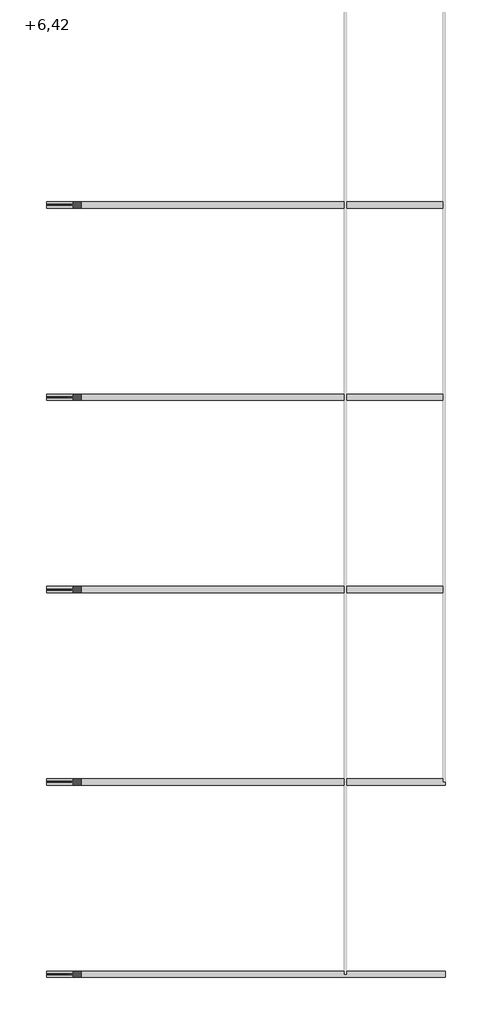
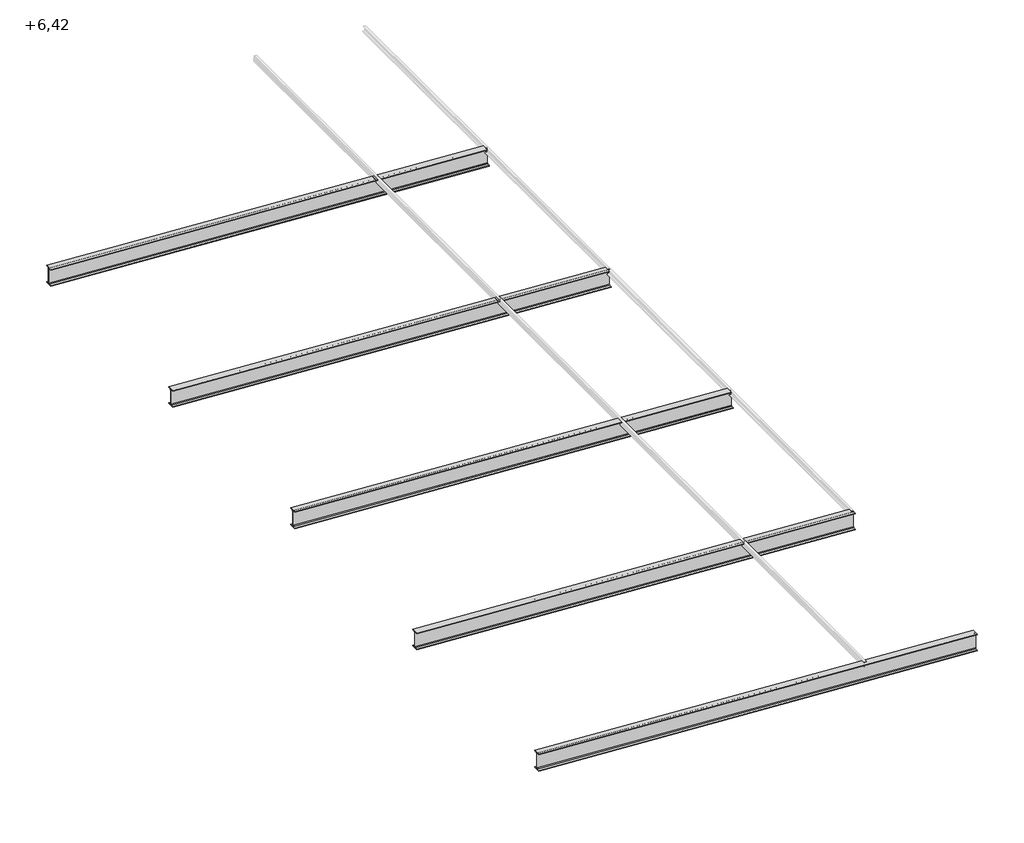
# One storey, part 1 of 2: 5 beams.
"""IFC4 building model written with IfcOpenShell, lengths in millimetres."""

import ifcopenshell
import ifcopenshell.guid

model = None  # the IFC model being written
_history = None  # IfcOwnerHistory: only IFC2X3 demands one
_inside = {}  # id of a spatial element -> (the spatial element, [elements in it])
_under = {}  # id of a project, library or spatial element -> (it, [spatial elements below it])
_declared = {}  # id of a project -> (the project, [libraries it declares])
_typed = {}  # id of a type object -> (the type object, [elements of that type])
_made_of = {}  # id of a material, layer set ... -> (it, [elements and type objects made of it])


def new_model(schema):
    """Start an empty IFC model of exactly this schema.

    Asked for "IFC4X3", IfcOpenShell would pick the latest addendum, in which some entities
    have other attributes; the version numbers below select the first issue.
    IFC2X3 requires an IfcOwnerHistory on every rooted entity: one is made here for all.
    """
    global model, _history
    if schema == "IFC4X3":
        model = ifcopenshell.file(schema_version=(4, 3, 0, 0))
    else:
        model = ifcopenshell.file(schema=schema)
    _inside.clear()
    _under.clear()
    _declared.clear()
    _typed.clear()
    _made_of.clear()
    _history = None
    if model.schema == "IFC2X3":
        org = make("IfcOrganization", Name="unknown")
        user = make(
            "IfcPersonAndOrganization",
            ThePerson=make("IfcPerson", FamilyName="unknown"),
            TheOrganization=org,
        )
        app = make(
            "IfcApplication",
            ApplicationDeveloper=org,
            Version="unknown",
            ApplicationFullName="unknown",
            ApplicationIdentifier="unknown",
        )
        _history = make(
            "IfcOwnerHistory",
            OwningUser=user,
            OwningApplication=app,
            ChangeAction="ADDED",
            CreationDate=0,
        )
    return model


def make(cls, **values):
    """One entity of the class cls with the attributes given. An attribute that is None is left unset."""
    return model.create_entity(
        cls, **{name: value for name, value in values.items() if value is not None}
    )


def rooted(cls, **values):
    """An entity with a GlobalId (a new one), such as an element, a storey or a relation."""
    return make(cls, GlobalId=ifcopenshell.guid.new(), OwnerHistory=_history, **values)


def si_unit(unit_type, name, prefix=None):
    """IfcSIUnit, for example si_unit("LENGTHUNIT", "METRE", prefix="MILLI")."""
    return make("IfcSIUnit", UnitType=unit_type, Prefix=prefix, Name=name)


def assignment(units):
    """IfcUnitAssignment: the units of a project."""
    return None if units is None else make("IfcUnitAssignment", Units=units)


def point(xyz):
    """IfcCartesianPoint."""
    return None if xyz is None else make("IfcCartesianPoint", Coordinates=xyz)


def direction(xyz):
    """IfcDirection."""
    return None if xyz is None else make("IfcDirection", DirectionRatios=xyz)


def frame(location, z_axis=None, x_axis=None):
    """IfcAxis2Placement3D, a coordinate frame: its origin and axes. An axis left out is left unset."""
    return make(
        "IfcAxis2Placement3D",
        Location=point(location),
        Axis=direction(z_axis),
        RefDirection=direction(x_axis),
    )


def origin():
    """The frame at (0, 0, 0) with its axes left unset."""
    return frame((0.0, 0.0, 0.0))


def place(relative_to, where):
    """IfcLocalPlacement: puts the frame where relative to a parent placement (None: the world)."""
    return make(
        "IfcLocalPlacement", PlacementRelTo=relative_to, RelativePlacement=where
    )


def context(
    kind, dimensions, precision=None, world=None, true_north=None, identifier=None
):
    """IfcGeometricRepresentationContext, for example the 3D "Model" context."""
    return make(
        "IfcGeometricRepresentationContext",
        ContextIdentifier=identifier,
        ContextType=kind,
        CoordinateSpaceDimension=dimensions,
        Precision=precision,
        WorldCoordinateSystem=world,
        TrueNorth=true_north,
    )


def project(units=None, contexts=None):
    """IfcProject with its units and contexts."""
    return rooted(
        "IfcProject",
        Name="project",
        RepresentationContexts=contexts,
        UnitsInContext=assignment(units),
    )


def spatial(cls, under=None, at=None, **own):
    """A site, building, storey or space (cls), placed at a placement, below another one or the project."""
    s = rooted(cls, ObjectPlacement=at, **own)
    if under is not None:
        _under.setdefault(under.id(), (under, []))[1].append(s)
    return s


def polyline(points):
    """IfcPolyline through the points."""
    return make("IfcPolyline", Points=[point(p) for p in points])


def ellipse_curve(where, semi_axis1, semi_axis2):
    """IfcEllipse in the frame where."""
    return make(
        "IfcEllipse", Position=where, SemiAxis1=semi_axis1, SemiAxis2=semi_axis2
    )


def shape(context_of_items, identifier, shape_type, items):
    """IfcShapeRepresentation: the items that make up one representation, for example the "Body"."""
    return make(
        "IfcShapeRepresentation",
        ContextOfItems=context_of_items,
        RepresentationIdentifier=identifier,
        RepresentationType=shape_type,
        Items=items,
    )


def made_of(thing, what):
    """Note that an element or type object is made of a material, layer set ...; save() writes the relation."""
    if what is not None:
        _made_of.setdefault(what.id(), (what, []))[1].append(thing)
    return thing


def element(
    cls,
    number,
    at=None,
    inside=None,
    cuts=None,
    type_object=None,
    material=None,
    context=None,
    identifier="Body",
    shape_type=None,
    held_by="IfcProductDefinitionShape",
    body=None,
    shapes=None,
    **own,
):
    """One element of the class cls, such as IfcWall. Its Tag is "e" and its number.

    at: its placement. inside: the storey or other place that contains it. cuts: it is an
    opening in that element (IfcRelVoidsElement). A single representation is given by context,
    identifier, shape_type and body (its items); several are given by shapes. held_by: the class
    of the entity that holds the representations. save() writes the other relations.
    """
    e = rooted(cls, Tag="e%d" % number, ObjectPlacement=at, **own)
    if body is not None:
        shapes = [shape(context, identifier, shape_type, body)]
    if shapes is not None:
        e.Representation = make(held_by, Representations=shapes)
    if inside is not None:
        _inside.setdefault(inside.id(), (inside, []))[1].append(e)
    if cuts is not None:
        rooted(
            "IfcRelVoidsElement", RelatingBuildingElement=cuts, RelatedOpeningElement=e
        )
    if type_object is not None:
        _typed.setdefault(type_object.id(), (type_object, []))[1].append(e)
    return made_of(e, material)


def aggregate(whole, parts):
    """IfcRelAggregates: a whole, such as a stair, and the parts it consists of."""
    return rooted("IfcRelAggregates", RelatingObject=whole, RelatedObjects=parts)


def save(model, path):
    """Write the relations noted so far, then the file.

    IfcRelAggregates (storeys below a building ...), IfcRelContainedInSpatialStructure (elements
    in a storey), IfcRelDefinesByType, IfcRelAssociatesMaterial and IfcRelDeclares: one each for
    every whole, place, type object, material and project.
    """
    for whole, parts in _under.values():
        aggregate(whole, parts)
    for where, things in _inside.values():
        rooted(
            "IfcRelContainedInSpatialStructure",
            RelatedElements=things,
            RelatingStructure=where,
        )
    for kind, things in _typed.values():
        rooted("IfcRelDefinesByType", RelatedObjects=things, RelatingType=kind)
    for what, things in _made_of.values():
        rooted("IfcRelAssociatesMaterial", RelatedObjects=things, RelatingMaterial=what)
    for by, libraries in _declared.values():
        rooted("IfcRelDeclares", RelatingContext=by, RelatedDefinitions=libraries)
    model.write(path)


def plane_surface(at):
    """IfcPlane: the flat surface through the origin of the frame at, square to its z axis."""
    return make("IfcPlane", Position=at)


def revolved_surface(curve, axis_point, axis_direction):
    """IfcSurfaceOfRevolution: the curve turned about the line through axis_point along axis_direction."""
    return make(
        "IfcSurfaceOfRevolution",
        SweptCurve=make("IfcArbitraryOpenProfileDef", ProfileType="CURVE", Curve=curve),
        AxisPosition=make("IfcAxis1Placement", Location=point(axis_point), Axis=direction(axis_direction)),
    )


def advanced_brep(points, edges, surfaces, faces):
    """IfcAdvancedBrep: a solid bounded by faces that lie on surfaces and meet in shared edges.

    An edge is (start, end): straight between two places in points (the first is 0);
    or (start, end, curve); or (start, end, curve, False) where it runs against its curve.
    A face is (place in surfaces, loops), or (place, loops, False) where it looks against
    its surface's normal. A loop lists edges by number (the first is 1), with a minus sign
    where the edge is run from its end to its start. The first loop is the outer one.
    """
    corners = [point(p) for p in points]
    vertices = [make("IfcVertexPoint", VertexGeometry=c) for c in corners]
    made = []
    for start, end, *more in edges:
        made.append(
            make(
                "IfcEdgeCurve",
                EdgeStart=vertices[start],
                EdgeEnd=vertices[end],
                EdgeGeometry=more[0] if more else make("IfcPolyline", Points=[corners[start], corners[end]]),
                SameSense=more[1] if len(more) > 1 else True,
            )
        )
    hull = []
    for where, loops, *sense in faces:
        bounds = []
        for j, loop in enumerate(loops):
            ring = [make("IfcOrientedEdge", EdgeElement=made[abs(k) - 1], Orientation=k > 0) for k in loop]
            bounds.append(
                make(
                    "IfcFaceOuterBound" if j == 0 else "IfcFaceBound",
                    Bound=make("IfcEdgeLoop", EdgeList=ring),
                    Orientation=True,
                )
            )
        hull.append(make("IfcAdvancedFace", Bounds=bounds, FaceSurface=surfaces[where], SameSense=sense[0] if sense else True))
    return make("IfcAdvancedBrep", Outer=make("IfcClosedShell", CfsFaces=hull))


model = new_model("IFC4")

# Units and contexts
model_context = context("Model", 3, world=origin())
ifc_project = project(units=[si_unit("LENGTHUNIT", "METRE", prefix="MILLI")], contexts=[model_context])

# Site, building, storey
site = spatial("IfcSite", under=ifc_project)
building = spatial("IfcBuilding", under=site)
storey = spatial("IfcBuildingStorey", under=building, Name="+6,42", Elevation=6424.0)

# Beams
placement = place(None, origin())
element("IfcBeam", 1, ObjectType="RPLN IPE - Dwuteowniki równoległościenne : I500PE", at=placement, inside=storey, context=model_context, shape_type="AdvancedBrep", body=[
    advanced_brep(
    [(-8321.9964847, -36886.3816585, 7205.3878617), (-8321.9964847, -36812.4816585, 7205.3878617), (-8321.9938274, -36812.4816585, 7189.3584456), (-8321.9938274, -37012.4816585, 7189.3584456), (-8321.9964847, -37012.4816585, 7205.3878617), (-8321.9964847, -36938.5816585, 7205.3878617), (-8321.9999723, -36917.5816585, 7226.4264702), (-8322.070722, -36917.5816585, 7653.2096717), (-8322.0742096, -36938.5816585, 7674.2482802), (-8322.0742096, -37012.4816585, 7674.2482802), (-8322.0768669, -37012.4816585, 7690.2776962), (-8322.0768669, -36812.4816585, 7690.2776962), (-8322.0742096, -36812.4816585, 7674.2482802), (-8322.0742096, -36886.3816585, 7674.2482802), (-8322.070722, -36907.3816585, 7653.2096717), (-8321.9999723, -36907.3816585, 7226.4264702), (4132.9926321, -36812.4816585, 6451.8610201), (4132.9926321, -36886.3816585, 6451.8610201), (4132.9926321, -36907.3816585, 6472.8994176), (4132.9926321, -36907.3816585, 6899.6783387), (4132.9926321, -36886.3816585, 6920.7167363), (4132.9926321, -36812.4816585, 6920.7167363), (4132.9926321, -36812.4816585, 6936.7459915), (4132.9926321, -37012.4816585, 6936.7459915), (4132.9926321, -37012.4816585, 6920.7167363), (4132.9926321, -36938.5816585, 6920.7167363), (4132.9926321, -36917.5816585, 6899.6783387), (4132.9926321, -36917.5816585, 6472.8994176), (4132.9926321, -36938.5816585, 6451.8610201), (4132.9926321, -37012.4816585, 6451.8610201), (4132.9926321, -37012.4816585, 6435.8317648), (4132.9926321, -36812.4816585, 6435.8317648)],
    [
        (0, 1),
        (1, 2),
        (2, 3),
        (3, 4),
        (4, 5),
        (5, 6, ellipse_curve(frame((-8321.9999723, -36938.5816585, 7226.4264702), z_axis=(0.9999999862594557, 0.0, 0.0001657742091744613), x_axis=(-0.00016577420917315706, 0.0, 0.9999999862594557)), 21.0386088, 21.0)),
        (6, 7),
        (7, 8, ellipse_curve(frame((-8322.070722, -36938.5816585, 7653.2096717), z_axis=(0.9999999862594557, 0.0, 0.0001657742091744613), x_axis=(-0.00016577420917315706, 0.0, 0.9999999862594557)), 21.0386088, 21.0)),
        (8, 9),
        (9, 10),
        (10, 11),
        (11, 12),
        (12, 13),
        (13, 14, ellipse_curve(frame((-8322.070722, -36886.3816585, 7653.2096717), z_axis=(0.9999999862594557, 0.0, 0.0001657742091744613), x_axis=(-0.00016577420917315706, 0.0, 0.9999999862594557)), 21.0386088, 21.0)),
        (14, 15),
        (15, 0, ellipse_curve(frame((-8321.9999723, -36886.3816585, 7226.4264702), z_axis=(0.9999999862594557, 0.0, 0.0001657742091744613), x_axis=(-0.00016577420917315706, 0.0, 0.9999999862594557)), 21.0386088, 21.0)),
        (16, 17),
        (17, 18, ellipse_curve(frame((4132.9926321, -36886.3816585, 6472.8994176), z_axis=(-1.0, 0.0, 0.0), x_axis=(0.0, 0.0, 0.9999999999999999)), 21.0383975, 21.0)),
        (18, 19),
        (19, 20, ellipse_curve(frame((4132.9926321, -36886.3816585, 6899.6783387), z_axis=(-1.0, 0.0, 0.0), x_axis=(0.0, 0.0, 0.9999999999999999)), 21.0383975, 21.0)),
        (20, 21),
        (21, 22),
        (22, 23),
        (23, 24),
        (24, 25),
        (25, 26, ellipse_curve(frame((4132.9926321, -36938.5816585, 6899.6783387), z_axis=(-1.0, 0.0, 0.0), x_axis=(0.0, 0.0, 0.9999999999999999)), 21.0383975, 21.0)),
        (26, 27),
        (27, 28, ellipse_curve(frame((4132.9926321, -36938.5816585, 6472.8994176), z_axis=(-1.0, 0.0, 0.0), x_axis=(0.0, 0.0, 0.9999999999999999)), 21.0383975, 21.0)),
        (28, 29),
        (29, 30),
        (30, 31),
        (31, 16),
        (16, 1),
        (0, 17),
        (31, 2),
        (30, 3),
        (29, 4),
        (28, 5),
        (27, 6),
        (26, 7),
        (25, 8),
        (24, 9),
        (23, 10),
        (22, 11),
        (21, 12),
        (20, 13),
        (19, 14),
        (18, 15),
    ],
    [
        plane_surface(frame((-8321.8596552, -36912.4816585, 6379.9913475), z_axis=(-0.9999999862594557, 0.0, -0.0001657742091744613), x_axis=(0.0001657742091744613, 0.0, -0.9999999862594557))),
        plane_surface(frame((4132.9926321, -36912.4816585, 6983.0025864), z_axis=(1.0, 0.0, 0.0), x_axis=(0.0, 0.0, 1.0))),
        plane_surface(frame((4227.795571, -36812.4816585, 6446.1254423), z_axis=(0.06038958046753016, 0.0, 0.9981748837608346), x_axis=(-0.9981748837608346, 0.0, 0.06038958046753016))),
        plane_surface(frame((4226.8293377, -36812.4816585, 6430.1546441), z_axis=(0.0, 1.0, 0.0), x_axis=(-0.9981748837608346, 0.0, 0.06038958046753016))),
        plane_surface(frame((4226.8293377, -37012.4816585, 6430.1546441), z_axis=(-0.06038958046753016, 0.0, -0.9981748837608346), x_axis=(-0.9981748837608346, 0.0, 0.06038958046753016))),
        plane_surface(frame((4227.795571, -37012.4816585, 6446.1254423), z_axis=(0.0, -1.0, 0.0), x_axis=(-0.9981748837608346, 0.0, 0.06038958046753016))),
        plane_surface(frame((4227.795571, -36938.5816585, 6446.1254423), z_axis=(0.06038958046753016, 0.0, 0.9981748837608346), x_axis=(-0.9981748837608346, 0.0, 0.06038958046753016))),
        revolved_surface(polyline([(-8323.27164115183, -36959.5816585, 7226.503406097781), (4134.260813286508, -36959.5816585, 6472.822692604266)]), (4229.0637522, -36938.5816585, 6467.0871148), (-0.9981748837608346, 0.0, 0.06038958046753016)),
        plane_surface(frame((4254.7897134, -36917.5816585, 6892.3096153), z_axis=(0.0, -1.0, 0.0), x_axis=(-0.9981748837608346, 0.0, 0.06038958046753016))),
        revolved_surface(polyline([(-8323.342390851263, -36959.5816585, 7653.286607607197), (4134.260813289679, -36959.5816585, 6899.601613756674)]), (4254.7897134, -36938.5816585, 6892.3096153), (-0.9981748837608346, 0.0, 0.06038958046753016)),
        plane_surface(frame((4256.0578946, -37012.4816585, 6913.2712879), z_axis=(-0.06038958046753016, 0.0, -0.9981748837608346), x_axis=(-0.9981748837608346, 0.0, 0.06038958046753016))),
        plane_surface(frame((4257.0241279, -37012.4816585, 6929.242086), z_axis=(0.0, -1.0, 0.0), x_axis=(-0.9981748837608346, 0.0, 0.06038958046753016))),
        plane_surface(frame((4257.0241279, -36812.4816585, 6929.242086), z_axis=(0.06038958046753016, 0.0, 0.9981748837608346), x_axis=(-0.9981748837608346, 0.0, 0.06038958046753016))),
        plane_surface(frame((4256.0578946, -36812.4816585, 6913.2712879), z_axis=(0.0, 1.0, 0.0), x_axis=(-0.9981748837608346, 0.0, 0.06038958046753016))),
        plane_surface(frame((4256.0578946, -36886.3816585, 6913.2712879), z_axis=(-0.06038958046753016, 0.0, -0.9981748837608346), x_axis=(-0.9981748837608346, 0.0, 0.06038958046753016))),
        revolved_surface(polyline([(-8323.342390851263, -36907.3816585, 7653.286607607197), (4134.260813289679, -36907.3816585, 6899.601613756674)]), (4254.7897134, -36886.3816585, 6892.3096153), (-0.9981748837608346, 0.0, 0.06038958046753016)),
        plane_surface(frame((4229.0637522, -36907.3816585, 6467.0871148), z_axis=(0.0, 1.0, 0.0), x_axis=(-0.9981748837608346, 0.0, 0.06038958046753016))),
        revolved_surface(polyline([(-8323.27164115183, -36907.3816585, 7226.503406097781), (4134.260813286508, -36907.3816585, 6472.822692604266)]), (4229.0637522, -36886.3816585, 6467.0871148), (-0.9981748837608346, 0.0, 0.06038958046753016)),
    ],
    [
        (0, [[1, 2, 3, 4, 5, 6, 7, 8, 9, 10, 11, 12, 13, 14, 15, 16]]),
        (1, [[17, 18, 19, 20, 21, 22, 23, 24, 25, 26, 27, 28, 29, 30, 31, 32]]),
        (2, [[33, -1, 34, -17]]),
        (3, [[35, -2, -33, -32]]),
        (4, [[36, -3, -35, -31]]),
        (5, [[37, -4, -36, -30]]),
        (6, [[38, -5, -37, -29]]),
        (7, [[39, -6, -38, -28]]),
        (8, [[40, -7, -39, -27]]),
        (9, [[41, -8, -40, -26]]),
        (10, [[42, -9, -41, -25]]),
        (11, [[43, -10, -42, -24]]),
        (12, [[44, -11, -43, -23]]),
        (13, [[45, -12, -44, -22]]),
        (14, [[46, -13, -45, -21]]),
        (15, [[47, -14, -46, -20]]),
        (16, [[48, -15, -47, -19]]),
        (17, [[-34, -16, -48, -18]]),
    ],
),
])
element("IfcBeam", 2, ObjectType="RPLN IPE - Dwuteowniki równoległościenne : I500PE", at=placement, inside=storey, context=model_context, shape_type="AdvancedBrep", body=[
    advanced_brep(
    [(-8321.9964847, -30886.3816585, 7205.3878617), (-8321.9964847, -30812.4816585, 7205.3878617), (-8321.9938274, -30812.4816585, 7189.3584456), (-8321.9938274, -31012.4816585, 7189.3584456), (-8321.9964847, -31012.4816585, 7205.3878617), (-8321.9964847, -30938.5816585, 7205.3878617), (-8321.9999723, -30917.5816585, 7226.4264702), (-8322.070722, -30917.5816585, 7653.2096717), (-8322.0742096, -30938.5816585, 7674.2482802), (-8322.0742096, -31012.4816585, 7674.2482802), (-8322.0768669, -31012.4816585, 7690.2776962), (-8322.0768669, -30812.4816585, 7690.2776962), (-8322.0742096, -30812.4816585, 7674.2482802), (-8322.0742096, -30886.3816585, 7674.2482802), (-8322.070722, -30907.3816585, 7653.2096717), (-8321.9999723, -30907.3816585, 7226.4264702), (4132.9926321, -30812.4816585, 6451.8610201), (4132.9926321, -30886.3816585, 6451.8610201), (4132.9926321, -30907.3816585, 6472.8994176), (4132.9926321, -30907.3816585, 6899.6783387), (4132.9926321, -30886.3816585, 6920.7167363), (4132.9926321, -30812.4816585, 6920.7167363), (4132.9926321, -30812.4816585, 6936.7459915), (4132.9926321, -31012.4816585, 6936.7459915), (4132.9926321, -31012.4816585, 6920.7167363), (4132.9926321, -30938.5816585, 6920.7167363), (4132.9926321, -30917.5816585, 6899.6783387), (4132.9926321, -30917.5816585, 6472.8994176), (4132.9926321, -30938.5816585, 6451.8610201), (4132.9926321, -31012.4816585, 6451.8610201), (4132.9926321, -31012.4816585, 6435.8317648), (4132.9926321, -30812.4816585, 6435.8317648)],
    [
        (0, 1),
        (1, 2),
        (2, 3),
        (3, 4),
        (4, 5),
        (5, 6, ellipse_curve(frame((-8321.9999723, -30938.5816585, 7226.4264702), z_axis=(0.9999999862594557, 0.0, 0.0001657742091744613), x_axis=(-0.00016577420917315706, 0.0, 0.9999999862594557)), 21.0386088, 21.0)),
        (6, 7),
        (7, 8, ellipse_curve(frame((-8322.070722, -30938.5816585, 7653.2096717), z_axis=(0.9999999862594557, 0.0, 0.0001657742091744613), x_axis=(-0.00016577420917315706, 0.0, 0.9999999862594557)), 21.0386088, 21.0)),
        (8, 9),
        (9, 10),
        (10, 11),
        (11, 12),
        (12, 13),
        (13, 14, ellipse_curve(frame((-8322.070722, -30886.3816585, 7653.2096717), z_axis=(0.9999999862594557, 0.0, 0.0001657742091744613), x_axis=(-0.00016577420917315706, 0.0, 0.9999999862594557)), 21.0386088, 21.0)),
        (14, 15),
        (15, 0, ellipse_curve(frame((-8321.9999723, -30886.3816585, 7226.4264702), z_axis=(0.9999999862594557, 0.0, 0.0001657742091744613), x_axis=(-0.00016577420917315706, 0.0, 0.9999999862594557)), 21.0386088, 21.0)),
        (16, 17),
        (17, 18, ellipse_curve(frame((4132.9926321, -30886.3816585, 6472.8994176), z_axis=(-1.0, 0.0, 0.0), x_axis=(0.0, 0.0, 0.9999999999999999)), 21.0383975, 21.0)),
        (18, 19),
        (19, 20, ellipse_curve(frame((4132.9926321, -30886.3816585, 6899.6783387), z_axis=(-1.0, 0.0, 0.0), x_axis=(0.0, 0.0, 0.9999999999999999)), 21.0383975, 21.0)),
        (20, 21),
        (21, 22),
        (22, 23),
        (23, 24),
        (24, 25),
        (25, 26, ellipse_curve(frame((4132.9926321, -30938.5816585, 6899.6783387), z_axis=(-1.0, 0.0, 0.0), x_axis=(0.0, 0.0, 0.9999999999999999)), 21.0383975, 21.0)),
        (26, 27),
        (27, 28, ellipse_curve(frame((4132.9926321, -30938.5816585, 6472.8994176), z_axis=(-1.0, 0.0, 0.0), x_axis=(0.0, 0.0, 0.9999999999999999)), 21.0383975, 21.0)),
        (28, 29),
        (29, 30),
        (30, 31),
        (31, 16),
        (16, 1),
        (0, 17),
        (31, 2),
        (30, 3),
        (29, 4),
        (28, 5),
        (27, 6),
        (26, 7),
        (25, 8),
        (24, 9),
        (23, 10),
        (22, 11),
        (21, 12),
        (20, 13),
        (19, 14),
        (18, 15),
    ],
    [
        plane_surface(frame((-8321.8596552, -36912.4816585, 6379.9913475), z_axis=(-0.9999999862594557, 0.0, -0.0001657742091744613), x_axis=(0.0001657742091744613, 0.0, -0.9999999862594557))),
        plane_surface(frame((4132.9926321, -36912.4816585, 6983.0025864), z_axis=(1.0, 0.0, 0.0), x_axis=(0.0, 0.0, 1.0))),
        plane_surface(frame((4227.795571, -30812.4816585, 6446.1254423), z_axis=(0.06038958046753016, 0.0, 0.9981748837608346), x_axis=(-0.9981748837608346, 0.0, 0.06038958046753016))),
        plane_surface(frame((4226.8293377, -30812.4816585, 6430.1546441), z_axis=(0.0, 1.0, 0.0), x_axis=(-0.9981748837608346, 0.0, 0.06038958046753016))),
        plane_surface(frame((4226.8293377, -31012.4816585, 6430.1546441), z_axis=(-0.06038958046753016, 0.0, -0.9981748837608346), x_axis=(-0.9981748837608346, 0.0, 0.06038958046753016))),
        plane_surface(frame((4227.795571, -31012.4816585, 6446.1254423), z_axis=(0.0, -1.0, 0.0), x_axis=(-0.9981748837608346, 0.0, 0.06038958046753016))),
        plane_surface(frame((4227.795571, -30938.5816585, 6446.1254423), z_axis=(0.06038958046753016, 0.0, 0.9981748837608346), x_axis=(-0.9981748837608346, 0.0, 0.06038958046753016))),
        revolved_surface(polyline([(-8323.27164115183, -30959.5816585, 7226.503406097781), (4134.260813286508, -30959.5816585, 6472.822692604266)]), (4229.0637522, -30938.5816585, 6467.0871148), (-0.9981748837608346, 0.0, 0.06038958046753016)),
        plane_surface(frame((4254.7897134, -30917.5816585, 6892.3096153), z_axis=(0.0, -1.0, 0.0), x_axis=(-0.9981748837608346, 0.0, 0.06038958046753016))),
        revolved_surface(polyline([(-8323.342390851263, -30959.5816585, 7653.286607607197), (4134.260813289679, -30959.5816585, 6899.601613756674)]), (4254.7897134, -30938.5816585, 6892.3096153), (-0.9981748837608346, 0.0, 0.06038958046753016)),
        plane_surface(frame((4256.0578946, -31012.4816585, 6913.2712879), z_axis=(-0.06038958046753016, 0.0, -0.9981748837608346), x_axis=(-0.9981748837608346, 0.0, 0.06038958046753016))),
        plane_surface(frame((4257.0241279, -31012.4816585, 6929.242086), z_axis=(0.0, -1.0, 0.0), x_axis=(-0.9981748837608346, 0.0, 0.06038958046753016))),
        plane_surface(frame((4257.0241279, -30812.4816585, 6929.242086), z_axis=(0.06038958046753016, 0.0, 0.9981748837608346), x_axis=(-0.9981748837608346, 0.0, 0.06038958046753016))),
        plane_surface(frame((4256.0578946, -30812.4816585, 6913.2712879), z_axis=(0.0, 1.0, 0.0), x_axis=(-0.9981748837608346, 0.0, 0.06038958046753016))),
        plane_surface(frame((4256.0578946, -30886.3816585, 6913.2712879), z_axis=(-0.06038958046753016, 0.0, -0.9981748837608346), x_axis=(-0.9981748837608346, 0.0, 0.06038958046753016))),
        revolved_surface(polyline([(-8323.342390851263, -30907.3816585, 7653.286607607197), (4134.260813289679, -30907.3816585, 6899.601613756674)]), (4254.7897134, -30886.3816585, 6892.3096153), (-0.9981748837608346, 0.0, 0.06038958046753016)),
        plane_surface(frame((4229.0637522, -30907.3816585, 6467.0871148), z_axis=(0.0, 1.0, 0.0), x_axis=(-0.9981748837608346, 0.0, 0.06038958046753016))),
        revolved_surface(polyline([(-8323.27164115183, -30907.3816585, 7226.503406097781), (4134.260813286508, -30907.3816585, 6472.822692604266)]), (4229.0637522, -30886.3816585, 6467.0871148), (-0.9981748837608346, 0.0, 0.06038958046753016)),
    ],
    [
        (0, [[1, 2, 3, 4, 5, 6, 7, 8, 9, 10, 11, 12, 13, 14, 15, 16]]),
        (1, [[17, 18, 19, 20, 21, 22, 23, 24, 25, 26, 27, 28, 29, 30, 31, 32]]),
        (2, [[33, -1, 34, -17]]),
        (3, [[35, -2, -33, -32]]),
        (4, [[36, -3, -35, -31]]),
        (5, [[37, -4, -36, -30]]),
        (6, [[38, -5, -37, -29]]),
        (7, [[39, -6, -38, -28]]),
        (8, [[40, -7, -39, -27]]),
        (9, [[41, -8, -40, -26]]),
        (10, [[42, -9, -41, -25]]),
        (11, [[43, -10, -42, -24]]),
        (12, [[44, -11, -43, -23]]),
        (13, [[45, -12, -44, -22]]),
        (14, [[46, -13, -45, -21]]),
        (15, [[47, -14, -46, -20]]),
        (16, [[48, -15, -47, -19]]),
        (17, [[-34, -16, -48, -18]]),
    ],
),
])
element("IfcBeam", 3, ObjectType="RPLN IPE - Dwuteowniki równoległościenne : I500PE", at=placement, inside=storey, context=model_context, shape_type="AdvancedBrep", body=[
    advanced_brep(
    [(-8321.9964847, -24886.3816585, 7205.3878617), (-8321.9964847, -24812.4816585, 7205.3878617), (-8321.9938274, -24812.4816585, 7189.3584456), (-8321.9938274, -25012.4816585, 7189.3584456), (-8321.9964847, -25012.4816585, 7205.3878617), (-8321.9964847, -24938.5816585, 7205.3878617), (-8321.9999723, -24917.5816585, 7226.4264702), (-8322.070722, -24917.5816585, 7653.2096717), (-8322.0742096, -24938.5816585, 7674.2482802), (-8322.0742096, -25012.4816585, 7674.2482802), (-8322.0768669, -25012.4816585, 7690.2776962), (-8322.0768669, -24812.4816585, 7690.2776962), (-8322.0742096, -24812.4816585, 7674.2482802), (-8322.0742096, -24886.3816585, 7674.2482802), (-8322.070722, -24907.3816585, 7653.2096717), (-8321.9999723, -24907.3816585, 7226.4264702), (4132.9926321, -24812.4816585, 6451.8610201), (4132.9926321, -24886.3816585, 6451.8610201), (4132.9926321, -24907.3816585, 6472.8994176), (4132.9926321, -24907.3816585, 6899.6783387), (4132.9926321, -24886.3816585, 6920.7167363), (4132.9926321, -24812.4816585, 6920.7167363), (4132.9926321, -24812.4816585, 6936.7459915), (4132.9926321, -25012.4816585, 6936.7459915), (4132.9926321, -25012.4816585, 6920.7167363), (4132.9926321, -24938.5816585, 6920.7167363), (4132.9926321, -24917.5816585, 6899.6783387), (4132.9926321, -24917.5816585, 6472.8994176), (4132.9926321, -24938.5816585, 6451.8610201), (4132.9926321, -25012.4816585, 6451.8610201), (4132.9926321, -25012.4816585, 6435.8317648), (4132.9926321, -24812.4816585, 6435.8317648)],
    [
        (0, 1),
        (1, 2),
        (2, 3),
        (3, 4),
        (4, 5),
        (5, 6, ellipse_curve(frame((-8321.9999723, -24938.5816585, 7226.4264702), z_axis=(0.9999999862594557, 0.0, 0.0001657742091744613), x_axis=(-0.00016577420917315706, 0.0, 0.9999999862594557)), 21.0386088, 21.0)),
        (6, 7),
        (7, 8, ellipse_curve(frame((-8322.070722, -24938.5816585, 7653.2096717), z_axis=(0.9999999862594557, 0.0, 0.0001657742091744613), x_axis=(-0.00016577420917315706, 0.0, 0.9999999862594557)), 21.0386088, 21.0)),
        (8, 9),
        (9, 10),
        (10, 11),
        (11, 12),
        (12, 13),
        (13, 14, ellipse_curve(frame((-8322.070722, -24886.3816585, 7653.2096717), z_axis=(0.9999999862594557, 0.0, 0.0001657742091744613), x_axis=(-0.00016577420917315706, 0.0, 0.9999999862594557)), 21.0386088, 21.0)),
        (14, 15),
        (15, 0, ellipse_curve(frame((-8321.9999723, -24886.3816585, 7226.4264702), z_axis=(0.9999999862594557, 0.0, 0.0001657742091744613), x_axis=(-0.00016577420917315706, 0.0, 0.9999999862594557)), 21.0386088, 21.0)),
        (16, 17),
        (17, 18, ellipse_curve(frame((4132.9926321, -24886.3816585, 6472.8994176), z_axis=(-1.0, 0.0, 0.0), x_axis=(0.0, 0.0, 0.9999999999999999)), 21.0383975, 21.0)),
        (18, 19),
        (19, 20, ellipse_curve(frame((4132.9926321, -24886.3816585, 6899.6783387), z_axis=(-1.0, 0.0, 0.0), x_axis=(0.0, 0.0, 0.9999999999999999)), 21.0383975, 21.0)),
        (20, 21),
        (21, 22),
        (22, 23),
        (23, 24),
        (24, 25),
        (25, 26, ellipse_curve(frame((4132.9926321, -24938.5816585, 6899.6783387), z_axis=(-1.0, 0.0, 0.0), x_axis=(0.0, 0.0, 0.9999999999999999)), 21.0383975, 21.0)),
        (26, 27),
        (27, 28, ellipse_curve(frame((4132.9926321, -24938.5816585, 6472.8994176), z_axis=(-1.0, 0.0, 0.0), x_axis=(0.0, 0.0, 0.9999999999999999)), 21.0383975, 21.0)),
        (28, 29),
        (29, 30),
        (30, 31),
        (31, 16),
        (16, 1),
        (0, 17),
        (31, 2),
        (30, 3),
        (29, 4),
        (28, 5),
        (27, 6),
        (26, 7),
        (25, 8),
        (24, 9),
        (23, 10),
        (22, 11),
        (21, 12),
        (20, 13),
        (19, 14),
        (18, 15),
    ],
    [
        plane_surface(frame((-8321.8596552, -36912.4816585, 6379.9913475), z_axis=(-0.9999999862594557, 0.0, -0.0001657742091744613), x_axis=(0.0001657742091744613, 0.0, -0.9999999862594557))),
        plane_surface(frame((4132.9926321, -36912.4816585, 6983.0025864), z_axis=(1.0, 0.0, 0.0), x_axis=(0.0, 0.0, 1.0))),
        plane_surface(frame((4227.795571, -24812.4816585, 6446.1254423), z_axis=(0.06038958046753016, 0.0, 0.9981748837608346), x_axis=(-0.9981748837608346, 0.0, 0.06038958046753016))),
        plane_surface(frame((4226.8293377, -24812.4816585, 6430.1546441), z_axis=(0.0, 1.0, 0.0), x_axis=(-0.9981748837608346, 0.0, 0.06038958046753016))),
        plane_surface(frame((4226.8293377, -25012.4816585, 6430.1546441), z_axis=(-0.06038958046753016, 0.0, -0.9981748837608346), x_axis=(-0.9981748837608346, 0.0, 0.06038958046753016))),
        plane_surface(frame((4227.795571, -25012.4816585, 6446.1254423), z_axis=(0.0, -1.0, 0.0), x_axis=(-0.9981748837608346, 0.0, 0.06038958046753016))),
        plane_surface(frame((4227.795571, -24938.5816585, 6446.1254423), z_axis=(0.06038958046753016, 0.0, 0.9981748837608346), x_axis=(-0.9981748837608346, 0.0, 0.06038958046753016))),
        revolved_surface(polyline([(-8323.27164115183, -24959.5816585, 7226.503406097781), (4134.260813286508, -24959.5816585, 6472.822692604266)]), (4229.0637522, -24938.5816585, 6467.0871148), (-0.9981748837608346, 0.0, 0.06038958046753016)),
        plane_surface(frame((4254.7897134, -24917.5816585, 6892.3096153), z_axis=(0.0, -1.0, 0.0), x_axis=(-0.9981748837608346, 0.0, 0.06038958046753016))),
        revolved_surface(polyline([(-8323.342390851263, -24959.5816585, 7653.286607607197), (4134.260813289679, -24959.5816585, 6899.601613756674)]), (4254.7897134, -24938.5816585, 6892.3096153), (-0.9981748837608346, 0.0, 0.06038958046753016)),
        plane_surface(frame((4256.0578946, -25012.4816585, 6913.2712879), z_axis=(-0.06038958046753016, 0.0, -0.9981748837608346), x_axis=(-0.9981748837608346, 0.0, 0.06038958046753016))),
        plane_surface(frame((4257.0241279, -25012.4816585, 6929.242086), z_axis=(0.0, -1.0, 0.0), x_axis=(-0.9981748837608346, 0.0, 0.06038958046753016))),
        plane_surface(frame((4257.0241279, -24812.4816585, 6929.242086), z_axis=(0.06038958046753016, 0.0, 0.9981748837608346), x_axis=(-0.9981748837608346, 0.0, 0.06038958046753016))),
        plane_surface(frame((4256.0578946, -24812.4816585, 6913.2712879), z_axis=(0.0, 1.0, 0.0), x_axis=(-0.9981748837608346, 0.0, 0.06038958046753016))),
        plane_surface(frame((4256.0578946, -24886.3816585, 6913.2712879), z_axis=(-0.06038958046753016, 0.0, -0.9981748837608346), x_axis=(-0.9981748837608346, 0.0, 0.06038958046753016))),
        revolved_surface(polyline([(-8323.342390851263, -24907.3816585, 7653.286607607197), (4134.260813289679, -24907.3816585, 6899.601613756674)]), (4254.7897134, -24886.3816585, 6892.3096153), (-0.9981748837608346, 0.0, 0.06038958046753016)),
        plane_surface(frame((4229.0637522, -24907.3816585, 6467.0871148), z_axis=(0.0, 1.0, 0.0), x_axis=(-0.9981748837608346, 0.0, 0.06038958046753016))),
        revolved_surface(polyline([(-8323.27164115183, -24907.3816585, 7226.503406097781), (4134.260813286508, -24907.3816585, 6472.822692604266)]), (4229.0637522, -24886.3816585, 6467.0871148), (-0.9981748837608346, 0.0, 0.06038958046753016)),
    ],
    [
        (0, [[1, 2, 3, 4, 5, 6, 7, 8, 9, 10, 11, 12, 13, 14, 15, 16]]),
        (1, [[17, 18, 19, 20, 21, 22, 23, 24, 25, 26, 27, 28, 29, 30, 31, 32]]),
        (2, [[33, -1, 34, -17]]),
        (3, [[35, -2, -33, -32]]),
        (4, [[36, -3, -35, -31]]),
        (5, [[37, -4, -36, -30]]),
        (6, [[38, -5, -37, -29]]),
        (7, [[39, -6, -38, -28]]),
        (8, [[40, -7, -39, -27]]),
        (9, [[41, -8, -40, -26]]),
        (10, [[42, -9, -41, -25]]),
        (11, [[43, -10, -42, -24]]),
        (12, [[44, -11, -43, -23]]),
        (13, [[45, -12, -44, -22]]),
        (14, [[46, -13, -45, -21]]),
        (15, [[47, -14, -46, -20]]),
        (16, [[48, -15, -47, -19]]),
        (17, [[-34, -16, -48, -18]]),
    ],
),
])
element("IfcBeam", 4, ObjectType="RPLN IPE - Dwuteowniki równoległościenne : I500PE", at=placement, inside=storey, context=model_context, shape_type="AdvancedBrep", body=[
    advanced_brep(
    [(-8321.9964847, -18886.3816585, 7205.3878617), (-8321.9964847, -18812.4816585, 7205.3878617), (-8321.9938274, -18812.4816585, 7189.3584456), (-8321.9938274, -19012.4816585, 7189.3584456), (-8321.9964847, -19012.4816585, 7205.3878617), (-8321.9964847, -18938.5816585, 7205.3878617), (-8321.9999723, -18917.5816585, 7226.4264702), (-8322.070722, -18917.5816585, 7653.2096717), (-8322.0742096, -18938.5816585, 7674.2482802), (-8322.0742096, -19012.4816585, 7674.2482802), (-8322.0768669, -19012.4816585, 7690.2776962), (-8322.0768669, -18812.4816585, 7690.2776962), (-8322.0742096, -18812.4816585, 7674.2482802), (-8322.0742096, -18886.3816585, 7674.2482802), (-8322.070722, -18907.3816585, 7653.2096717), (-8321.9999723, -18907.3816585, 7226.4264702), (4132.9926321, -18812.4816585, 6451.8610201), (4132.9926321, -18886.3816585, 6451.8610201), (4132.9926321, -18907.3816585, 6472.8994176), (4132.9926321, -18907.3816585, 6899.6783387), (4132.9926321, -18886.3816585, 6920.7167363), (4132.9926321, -18812.4816585, 6920.7167363), (4132.9926321, -18812.4816585, 6936.7459915), (4132.9926321, -19012.4816585, 6936.7459915), (4132.9926321, -19012.4816585, 6920.7167363), (4132.9926321, -18938.5816585, 6920.7167363), (4132.9926321, -18917.5816585, 6899.6783387), (4132.9926321, -18917.5816585, 6472.8994176), (4132.9926321, -18938.5816585, 6451.8610201), (4132.9926321, -19012.4816585, 6451.8610201), (4132.9926321, -19012.4816585, 6435.8317648), (4132.9926321, -18812.4816585, 6435.8317648)],
    [
        (0, 1),
        (1, 2),
        (2, 3),
        (3, 4),
        (4, 5),
        (5, 6, ellipse_curve(frame((-8321.9999723, -18938.5816585, 7226.4264702), z_axis=(0.9999999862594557, 0.0, 0.0001657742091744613), x_axis=(-0.00016577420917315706, 0.0, 0.9999999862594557)), 21.0386088, 21.0)),
        (6, 7),
        (7, 8, ellipse_curve(frame((-8322.070722, -18938.5816585, 7653.2096717), z_axis=(0.9999999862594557, 0.0, 0.0001657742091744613), x_axis=(-0.00016577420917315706, 0.0, 0.9999999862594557)), 21.0386088, 21.0)),
        (8, 9),
        (9, 10),
        (10, 11),
        (11, 12),
        (12, 13),
        (13, 14, ellipse_curve(frame((-8322.070722, -18886.3816585, 7653.2096717), z_axis=(0.9999999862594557, 0.0, 0.0001657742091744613), x_axis=(-0.00016577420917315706, 0.0, 0.9999999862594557)), 21.0386088, 21.0)),
        (14, 15),
        (15, 0, ellipse_curve(frame((-8321.9999723, -18886.3816585, 7226.4264702), z_axis=(0.9999999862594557, 0.0, 0.0001657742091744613), x_axis=(-0.00016577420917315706, 0.0, 0.9999999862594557)), 21.0386088, 21.0)),
        (16, 17),
        (17, 18, ellipse_curve(frame((4132.9926321, -18886.3816585, 6472.8994176), z_axis=(-1.0, 0.0, 0.0), x_axis=(0.0, 0.0, 0.9999999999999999)), 21.0383975, 21.0)),
        (18, 19),
        (19, 20, ellipse_curve(frame((4132.9926321, -18886.3816585, 6899.6783387), z_axis=(-1.0, 0.0, 0.0), x_axis=(0.0, 0.0, 0.9999999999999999)), 21.0383975, 21.0)),
        (20, 21),
        (21, 22),
        (22, 23),
        (23, 24),
        (24, 25),
        (25, 26, ellipse_curve(frame((4132.9926321, -18938.5816585, 6899.6783387), z_axis=(-1.0, 0.0, 0.0), x_axis=(0.0, 0.0, 0.9999999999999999)), 21.0383975, 21.0)),
        (26, 27),
        (27, 28, ellipse_curve(frame((4132.9926321, -18938.5816585, 6472.8994176), z_axis=(-1.0, 0.0, 0.0), x_axis=(0.0, 0.0, 0.9999999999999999)), 21.0383975, 21.0)),
        (28, 29),
        (29, 30),
        (30, 31),
        (31, 16),
        (16, 1),
        (0, 17),
        (31, 2),
        (30, 3),
        (29, 4),
        (28, 5),
        (27, 6),
        (26, 7),
        (25, 8),
        (24, 9),
        (23, 10),
        (22, 11),
        (21, 12),
        (20, 13),
        (19, 14),
        (18, 15),
    ],
    [
        plane_surface(frame((-8321.8596552, -36912.4816585, 6379.9913475), z_axis=(-0.9999999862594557, 0.0, -0.0001657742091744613), x_axis=(0.0001657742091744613, 0.0, -0.9999999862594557))),
        plane_surface(frame((4132.9926321, -36912.4816585, 6983.0025864), z_axis=(1.0, 0.0, 0.0), x_axis=(0.0, 0.0, 1.0))),
        plane_surface(frame((4227.795571, -18812.4816585, 6446.1254423), z_axis=(0.06038958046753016, 0.0, 0.9981748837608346), x_axis=(-0.9981748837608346, 0.0, 0.06038958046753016))),
        plane_surface(frame((4226.8293377, -18812.4816585, 6430.1546441), z_axis=(0.0, 1.0, 0.0), x_axis=(-0.9981748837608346, 0.0, 0.06038958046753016))),
        plane_surface(frame((4226.8293377, -19012.4816585, 6430.1546441), z_axis=(-0.06038958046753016, 0.0, -0.9981748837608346), x_axis=(-0.9981748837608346, 0.0, 0.06038958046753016))),
        plane_surface(frame((4227.795571, -19012.4816585, 6446.1254423), z_axis=(0.0, -1.0, 0.0), x_axis=(-0.9981748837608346, 0.0, 0.06038958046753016))),
        plane_surface(frame((4227.795571, -18938.5816585, 6446.1254423), z_axis=(0.06038958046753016, 0.0, 0.9981748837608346), x_axis=(-0.9981748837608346, 0.0, 0.06038958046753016))),
        revolved_surface(polyline([(-8323.27164115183, -18959.5816585, 7226.503406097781), (4134.260813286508, -18959.5816585, 6472.822692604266)]), (4229.0637522, -18938.5816585, 6467.0871148), (-0.9981748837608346, 0.0, 0.06038958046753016)),
        plane_surface(frame((4254.7897134, -18917.5816585, 6892.3096153), z_axis=(0.0, -1.0, 0.0), x_axis=(-0.9981748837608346, 0.0, 0.06038958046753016))),
        revolved_surface(polyline([(-8323.342390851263, -18959.5816585, 7653.286607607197), (4134.260813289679, -18959.5816585, 6899.601613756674)]), (4254.7897134, -18938.5816585, 6892.3096153), (-0.9981748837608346, 0.0, 0.06038958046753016)),
        plane_surface(frame((4256.0578946, -19012.4816585, 6913.2712879), z_axis=(-0.06038958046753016, 0.0, -0.9981748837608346), x_axis=(-0.9981748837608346, 0.0, 0.06038958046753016))),
        plane_surface(frame((4257.0241279, -19012.4816585, 6929.242086), z_axis=(0.0, -1.0, 0.0), x_axis=(-0.9981748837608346, 0.0, 0.06038958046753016))),
        plane_surface(frame((4257.0241279, -18812.4816585, 6929.242086), z_axis=(0.06038958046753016, 0.0, 0.9981748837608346), x_axis=(-0.9981748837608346, 0.0, 0.06038958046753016))),
        plane_surface(frame((4256.0578946, -18812.4816585, 6913.2712879), z_axis=(0.0, 1.0, 0.0), x_axis=(-0.9981748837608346, 0.0, 0.06038958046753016))),
        plane_surface(frame((4256.0578946, -18886.3816585, 6913.2712879), z_axis=(-0.06038958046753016, 0.0, -0.9981748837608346), x_axis=(-0.9981748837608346, 0.0, 0.06038958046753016))),
        revolved_surface(polyline([(-8323.342390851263, -18907.3816585, 7653.286607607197), (4134.260813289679, -18907.3816585, 6899.601613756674)]), (4254.7897134, -18886.3816585, 6892.3096153), (-0.9981748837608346, 0.0, 0.06038958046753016)),
        plane_surface(frame((4229.0637522, -18907.3816585, 6467.0871148), z_axis=(0.0, 1.0, 0.0), x_axis=(-0.9981748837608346, 0.0, 0.06038958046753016))),
        revolved_surface(polyline([(-8323.27164115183, -18907.3816585, 7226.503406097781), (4134.260813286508, -18907.3816585, 6472.822692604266)]), (4229.0637522, -18886.3816585, 6467.0871148), (-0.9981748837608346, 0.0, 0.06038958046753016)),
    ],
    [
        (0, [[1, 2, 3, 4, 5, 6, 7, 8, 9, 10, 11, 12, 13, 14, 15, 16]]),
        (1, [[17, 18, 19, 20, 21, 22, 23, 24, 25, 26, 27, 28, 29, 30, 31, 32]]),
        (2, [[33, -1, 34, -17]]),
        (3, [[35, -2, -33, -32]]),
        (4, [[36, -3, -35, -31]]),
        (5, [[37, -4, -36, -30]]),
        (6, [[38, -5, -37, -29]]),
        (7, [[39, -6, -38, -28]]),
        (8, [[40, -7, -39, -27]]),
        (9, [[41, -8, -40, -26]]),
        (10, [[42, -9, -41, -25]]),
        (11, [[43, -10, -42, -24]]),
        (12, [[44, -11, -43, -23]]),
        (13, [[45, -12, -44, -22]]),
        (14, [[46, -13, -45, -21]]),
        (15, [[47, -14, -46, -20]]),
        (16, [[48, -15, -47, -19]]),
        (17, [[-34, -16, -48, -18]]),
    ],
),
])
element("IfcBeam", 5, ObjectType="RPLN IPE - Dwuteowniki równoległościenne : I500PE", at=placement, inside=storey, context=model_context, shape_type="AdvancedBrep", body=[
    advanced_brep(
    [(-8321.9964847, -12886.3816585, 7205.3878617), (-8321.9964847, -12812.4816585, 7205.3878617), (-8321.9938274, -12812.4816585, 7189.3584456), (-8321.9938274, -13012.4816585, 7189.3584456), (-8321.9964847, -13012.4816585, 7205.3878617), (-8321.9964847, -12938.5816585, 7205.3878617), (-8321.9999723, -12917.5816585, 7226.4264702), (-8322.070722, -12917.5816585, 7653.2096717), (-8322.0742096, -12938.5816585, 7674.2482802), (-8322.0742096, -13012.4816585, 7674.2482802), (-8322.0768669, -13012.4816585, 7690.2776962), (-8322.0768669, -12812.4816585, 7690.2776962), (-8322.0742096, -12812.4816585, 7674.2482802), (-8322.0742096, -12886.3816585, 7674.2482802), (-8322.070722, -12907.3816585, 7653.2096717), (-8321.9999723, -12907.3816585, 7226.4264702), (4132.9926321, -12812.4816585, 6451.8610201), (4132.9926321, -12886.3816585, 6451.8610201), (4132.9926321, -12907.3816585, 6472.8994176), (4132.9926321, -12907.3816585, 6899.6783387), (4132.9926321, -12886.3816585, 6920.7167363), (4132.9926321, -12812.4816585, 6920.7167363), (4132.9926321, -12812.4816585, 6936.7459915), (4132.9926321, -13012.4816585, 6936.7459915), (4132.9926321, -13012.4816585, 6920.7167363), (4132.9926321, -12938.5816585, 6920.7167363), (4132.9926321, -12917.5816585, 6899.6783387), (4132.9926321, -12917.5816585, 6472.8994176), (4132.9926321, -12938.5816585, 6451.8610201), (4132.9926321, -13012.4816585, 6451.8610201), (4132.9926321, -13012.4816585, 6435.8317648), (4132.9926321, -12812.4816585, 6435.8317648)],
    [
        (0, 1),
        (1, 2),
        (2, 3),
        (3, 4),
        (4, 5),
        (5, 6, ellipse_curve(frame((-8321.9999723, -12938.5816585, 7226.4264702), z_axis=(0.9999999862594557, 0.0, 0.0001657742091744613), x_axis=(-0.00016577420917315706, 0.0, 0.9999999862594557)), 21.0386088, 21.0)),
        (6, 7),
        (7, 8, ellipse_curve(frame((-8322.070722, -12938.5816585, 7653.2096717), z_axis=(0.9999999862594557, 0.0, 0.0001657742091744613), x_axis=(-0.00016577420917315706, 0.0, 0.9999999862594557)), 21.0386088, 21.0)),
        (8, 9),
        (9, 10),
        (10, 11),
        (11, 12),
        (12, 13),
        (13, 14, ellipse_curve(frame((-8322.070722, -12886.3816585, 7653.2096717), z_axis=(0.9999999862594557, 0.0, 0.0001657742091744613), x_axis=(-0.00016577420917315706, 0.0, 0.9999999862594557)), 21.0386088, 21.0)),
        (14, 15),
        (15, 0, ellipse_curve(frame((-8321.9999723, -12886.3816585, 7226.4264702), z_axis=(0.9999999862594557, 0.0, 0.0001657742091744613), x_axis=(-0.00016577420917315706, 0.0, 0.9999999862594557)), 21.0386088, 21.0)),
        (16, 17),
        (17, 18, ellipse_curve(frame((4132.9926321, -12886.3816585, 6472.8994176), z_axis=(-1.0, 0.0, 0.0), x_axis=(0.0, 0.0, 0.9999999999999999)), 21.0383975, 21.0)),
        (18, 19),
        (19, 20, ellipse_curve(frame((4132.9926321, -12886.3816585, 6899.6783387), z_axis=(-1.0, 0.0, 0.0), x_axis=(0.0, 0.0, 0.9999999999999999)), 21.0383975, 21.0)),
        (20, 21),
        (21, 22),
        (22, 23),
        (23, 24),
        (24, 25),
        (25, 26, ellipse_curve(frame((4132.9926321, -12938.5816585, 6899.6783387), z_axis=(-1.0, 0.0, 0.0), x_axis=(0.0, 0.0, 0.9999999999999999)), 21.0383975, 21.0)),
        (26, 27),
        (27, 28, ellipse_curve(frame((4132.9926321, -12938.5816585, 6472.8994176), z_axis=(-1.0, 0.0, 0.0), x_axis=(0.0, 0.0, 0.9999999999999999)), 21.0383975, 21.0)),
        (28, 29),
        (29, 30),
        (30, 31),
        (31, 16),
        (16, 1),
        (0, 17),
        (31, 2),
        (30, 3),
        (29, 4),
        (28, 5),
        (27, 6),
        (26, 7),
        (25, 8),
        (24, 9),
        (23, 10),
        (22, 11),
        (21, 12),
        (20, 13),
        (19, 14),
        (18, 15),
    ],
    [
        plane_surface(frame((-8321.8596552, -36912.4816585, 6379.9913475), z_axis=(-0.9999999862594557, 0.0, -0.0001657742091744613), x_axis=(0.0001657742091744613, 0.0, -0.9999999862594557))),
        plane_surface(frame((4132.9926321, -36912.4816585, 6983.0025864), z_axis=(1.0, 0.0, 0.0), x_axis=(0.0, 0.0, 1.0))),
        plane_surface(frame((4227.795571, -12812.4816585, 6446.1254423), z_axis=(0.06038958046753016, 0.0, 0.9981748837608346), x_axis=(-0.9981748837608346, 0.0, 0.06038958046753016))),
        plane_surface(frame((4226.8293377, -12812.4816585, 6430.1546441), z_axis=(0.0, 1.0, 0.0), x_axis=(-0.9981748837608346, 0.0, 0.06038958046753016))),
        plane_surface(frame((4226.8293377, -13012.4816585, 6430.1546441), z_axis=(-0.06038958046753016, 0.0, -0.9981748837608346), x_axis=(-0.9981748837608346, 0.0, 0.06038958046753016))),
        plane_surface(frame((4227.795571, -13012.4816585, 6446.1254423), z_axis=(0.0, -1.0, 0.0), x_axis=(-0.9981748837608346, 0.0, 0.06038958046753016))),
        plane_surface(frame((4227.795571, -12938.5816585, 6446.1254423), z_axis=(0.06038958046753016, 0.0, 0.9981748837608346), x_axis=(-0.9981748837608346, 0.0, 0.06038958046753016))),
        revolved_surface(polyline([(-8323.27164115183, -12959.5816585, 7226.503406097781), (4134.260813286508, -12959.5816585, 6472.822692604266)]), (4229.0637522, -12938.5816585, 6467.0871148), (-0.9981748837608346, 0.0, 0.06038958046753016)),
        plane_surface(frame((4254.7897134, -12917.5816585, 6892.3096153), z_axis=(0.0, -1.0, 0.0), x_axis=(-0.9981748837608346, 0.0, 0.06038958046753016))),
        revolved_surface(polyline([(-8323.342390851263, -12959.5816585, 7653.286607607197), (4134.260813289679, -12959.5816585, 6899.601613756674)]), (4254.7897134, -12938.5816585, 6892.3096153), (-0.9981748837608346, 0.0, 0.06038958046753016)),
        plane_surface(frame((4256.0578946, -13012.4816585, 6913.2712879), z_axis=(-0.06038958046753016, 0.0, -0.9981748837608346), x_axis=(-0.9981748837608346, 0.0, 0.06038958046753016))),
        plane_surface(frame((4257.0241279, -13012.4816585, 6929.242086), z_axis=(0.0, -1.0, 0.0), x_axis=(-0.9981748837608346, 0.0, 0.06038958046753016))),
        plane_surface(frame((4257.0241279, -12812.4816585, 6929.242086), z_axis=(0.06038958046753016, 0.0, 0.9981748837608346), x_axis=(-0.9981748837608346, 0.0, 0.06038958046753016))),
        plane_surface(frame((4256.0578946, -12812.4816585, 6913.2712879), z_axis=(0.0, 1.0, 0.0), x_axis=(-0.9981748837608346, 0.0, 0.06038958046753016))),
        plane_surface(frame((4256.0578946, -12886.3816585, 6913.2712879), z_axis=(-0.06038958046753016, 0.0, -0.9981748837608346), x_axis=(-0.9981748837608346, 0.0, 0.06038958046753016))),
        revolved_surface(polyline([(-8323.342390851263, -12907.3816585, 7653.286607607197), (4134.260813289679, -12907.3816585, 6899.601613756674)]), (4254.7897134, -12886.3816585, 6892.3096153), (-0.9981748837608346, 0.0, 0.06038958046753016)),
        plane_surface(frame((4229.0637522, -12907.3816585, 6467.0871148), z_axis=(0.0, 1.0, 0.0), x_axis=(-0.9981748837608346, 0.0, 0.06038958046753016))),
        revolved_surface(polyline([(-8323.27164115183, -12907.3816585, 7226.503406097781), (4134.260813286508, -12907.3816585, 6472.822692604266)]), (4229.0637522, -12886.3816585, 6467.0871148), (-0.9981748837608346, 0.0, 0.06038958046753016)),
    ],
    [
        (0, [[1, 2, 3, 4, 5, 6, 7, 8, 9, 10, 11, 12, 13, 14, 15, 16]]),
        (1, [[17, 18, 19, 20, 21, 22, 23, 24, 25, 26, 27, 28, 29, 30, 31, 32]]),
        (2, [[33, -1, 34, -17]]),
        (3, [[35, -2, -33, -32]]),
        (4, [[36, -3, -35, -31]]),
        (5, [[37, -4, -36, -30]]),
        (6, [[38, -5, -37, -29]]),
        (7, [[39, -6, -38, -28]]),
        (8, [[40, -7, -39, -27]]),
        (9, [[41, -8, -40, -26]]),
        (10, [[42, -9, -41, -25]]),
        (11, [[43, -10, -42, -24]]),
        (12, [[44, -11, -43, -23]]),
        (13, [[45, -12, -44, -22]]),
        (14, [[46, -13, -45, -21]]),
        (15, [[47, -14, -46, -20]]),
        (16, [[48, -15, -47, -19]]),
        (17, [[-34, -16, -48, -18]]),
    ],
),
])

save(model, "model.ifc")
